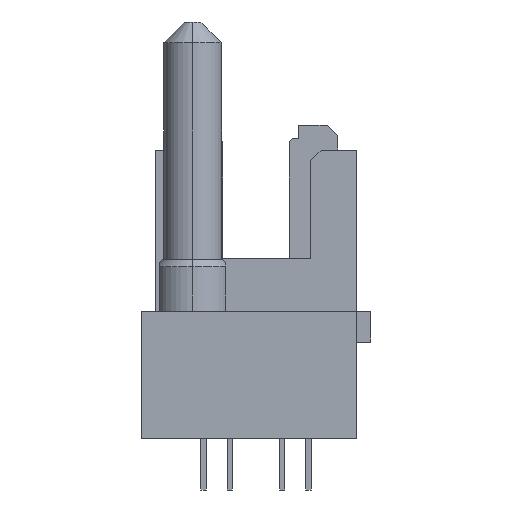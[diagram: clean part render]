
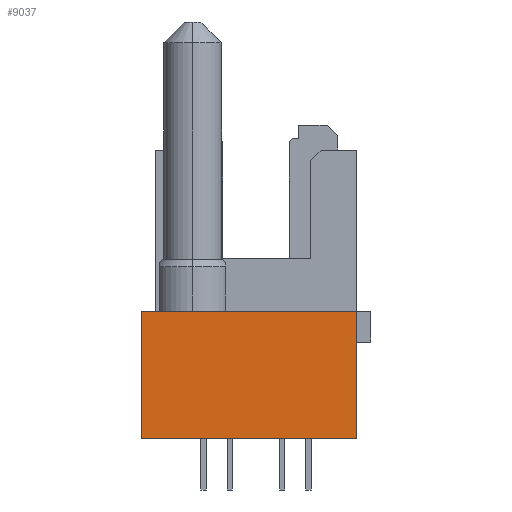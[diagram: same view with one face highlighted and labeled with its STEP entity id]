
A CAD part, left-side view. The second image highlights one B-rep face of the part: STEP entity #9037.
In plain terms, the highlighted planar face has unit normal (-1, 0, 0).
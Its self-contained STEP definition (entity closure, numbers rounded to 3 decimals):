
#481 = VERTEX_POINT ( 'NONE', #13265 ) ;
#1779 = VECTOR ( 'NONE', #2069, 1000. ) ;
#2069 = DIRECTION ( 'NONE',  ( 0., 1., 0. ) ) ;
#2149 = FACE_OUTER_BOUND ( 'NONE', #20490, .T. ) ;
#3186 = ORIENTED_EDGE ( 'NONE', *, *, #20257, .T. ) ;
#3197 = CARTESIAN_POINT ( 'NONE',  ( -41.7, 5.565, -15.16 ) ) ;
#3394 = LINE ( 'NONE', #3804, #15910 ) ;
#3582 = ORIENTED_EDGE ( 'NONE', *, *, #14327, .T. ) ;
#3804 = CARTESIAN_POINT ( 'NONE',  ( -41.7, -4.85, -15.16 ) ) ;
#3969 = CARTESIAN_POINT ( 'NONE',  ( -41.7, -4.85, -9. ) ) ;
#6010 = CARTESIAN_POINT ( 'NONE',  ( -41.7, 5.565, 0. ) ) ;
#6018 = ORIENTED_EDGE ( 'NONE', *, *, #12326, .T. ) ;
#8145 = CARTESIAN_POINT ( 'NONE',  ( -41.7, -4.85, -15.16 ) ) ;
#8541 = DIRECTION ( 'NONE',  ( -1., 0., 0. ) ) ;
#9037 = ADVANCED_FACE ( 'NONE', ( #2149 ), #23451, .T. ) ;
#11994 = AXIS2_PLACEMENT_3D ( 'NONE', #6010, #8541, #25986 ) ;
#12326 = EDGE_CURVE ( 'NONE', #29025, #13431, #23024, .T. ) ;
#13265 = CARTESIAN_POINT ( 'NONE',  ( -41.7, 5.565, -9. ) ) ;
#13431 = VERTEX_POINT ( 'NONE', #8145 ) ;
#14327 = EDGE_CURVE ( 'NONE', #22204, #481, #15837, .T. ) ;
#15621 = VECTOR ( 'NONE', #18113, 1000. ) ;
#15837 = LINE ( 'NONE', #26960, #1779 ) ;
#15910 = VECTOR ( 'NONE', #18766, 1000. ) ;
#18113 = DIRECTION ( 'NONE',  ( 0., -1., 0. ) ) ;
#18766 = DIRECTION ( 'NONE',  ( 0., 0., 1. ) ) ;
#19203 = EDGE_CURVE ( 'NONE', #13431, #22204, #3394, .T. ) ;
#19619 = CARTESIAN_POINT ( 'NONE',  ( -41.7, 5.565, 0. ) ) ;
#20257 = EDGE_CURVE ( 'NONE', #481, #29025, #26495, .T. ) ;
#20490 = EDGE_LOOP ( 'NONE', ( #6018, #29395, #3582, #3186 ) ) ;
#22123 = DIRECTION ( 'NONE',  ( 0., 0., -1. ) ) ;
#22204 = VERTEX_POINT ( 'NONE', #3969 ) ;
#23024 = LINE ( 'NONE', #25538, #15621 ) ;
#23451 = PLANE ( 'NONE',  #11994 ) ;
#25538 = CARTESIAN_POINT ( 'NONE',  ( -41.7, 5.565, -15.16 ) ) ;
#25986 = DIRECTION ( 'NONE',  ( 0., 0., 1. ) ) ;
#26495 = LINE ( 'NONE', #19619, #31569 ) ;
#26960 = CARTESIAN_POINT ( 'NONE',  ( -41.7, 5.565, -9. ) ) ;
#29025 = VERTEX_POINT ( 'NONE', #3197 ) ;
#29395 = ORIENTED_EDGE ( 'NONE', *, *, #19203, .T. ) ;
#31569 = VECTOR ( 'NONE', #22123, 1000. ) ;
